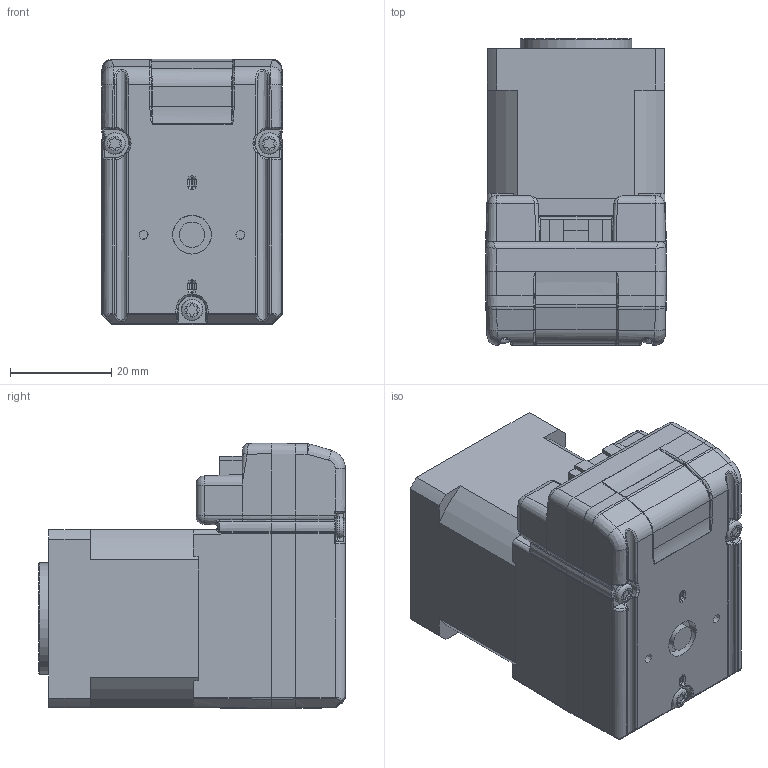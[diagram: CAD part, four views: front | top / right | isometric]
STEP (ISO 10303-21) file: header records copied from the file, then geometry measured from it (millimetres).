
FILE_DESCRIPTION(('MDI 14, Plus_Linear, 12 Pin JST, Single Stack'),'1');
FILE_NAME('MDI 14, Plus_Linear, 12 Pin JST, Single Stack.stp','2011-07-01T19:41:07',('P. Bordua 07/01/11'),('Schneider Electric Motion USA'),'Spatial Interop R21 SP3','Kubotek KeyCreator 2011 V10.0.1 (21821)','KC');
FILE_SCHEMA(('automotive_design'));
Length unit declared in the file: inch
Products named in the file (1): 1
Bounding box: 35.75 x 60.42 x 52.38 mm (x, y, z)
Volume: 84733.9 mm3; surface area: 13746 mm2
Topology: 1 solids, 1 shells, 603 faces, 1742 edges, 1166 vertices
Faces by surface type: bspline 190, cylinder 186, plane 163, cone 46, torus 18
Full cylindrical faces by diameter (mm): 0.635 x12, 2.5 x4, 4.242 x3, 5 x2, 7.087 x1, 22 x1
Entity records: 57006 total; most frequent: CARTESIAN_POINT 27493, ORIENTED_EDGE 3374, PRESENTATION_STYLE_ASSIGNMENT 2894, COLOUR_RGB 2894, STYLED_ITEM 2291, CURVE_STYLE 2290, DRAUGHTING_PRE_DEFINED_CURVE_FONT 2290, DIRECTION 2143
